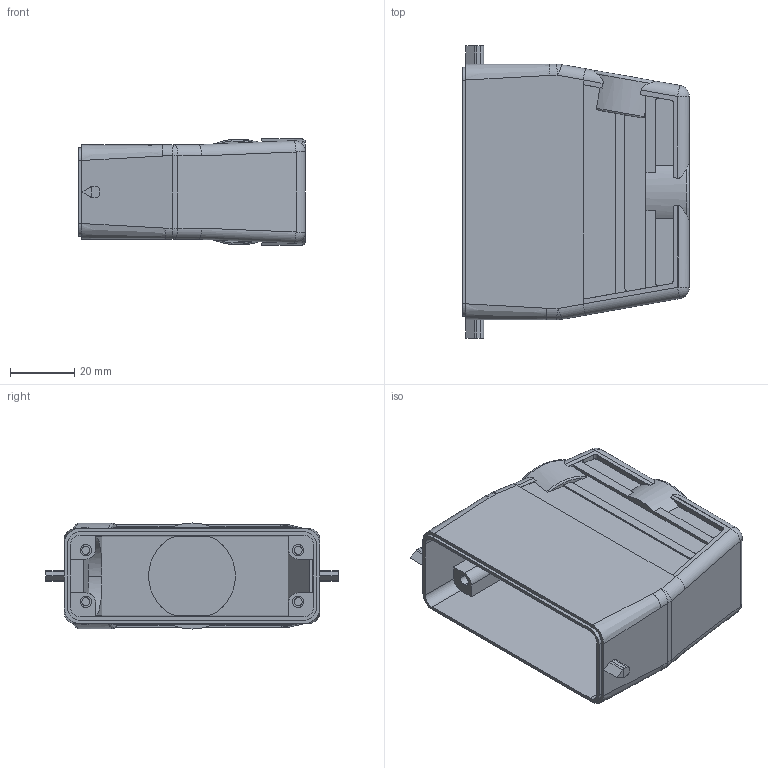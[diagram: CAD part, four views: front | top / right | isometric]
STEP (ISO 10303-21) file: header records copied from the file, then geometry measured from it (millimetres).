
FILE_DESCRIPTION((''),'2;1');
FILE_NAME('H16A-TSH-M25','2022-07-11T',('PC'),(''),'PRO/ENGINEER BY PARAMETRIC TECHNOLOGY CORPORATION, 2009220','PRO/ENGINEER BY PARAMETRIC TECHNOLOGY CORPORATION, 2009220','');
FILE_SCHEMA(('CONFIG_CONTROL_DESIGN'));
Length unit declared in the file: millimetre
Products named in the file (1): H16A-TSH-M25
Bounding box: 70.5 x 90.9 x 33 mm (x, y, z)
Surface area: 32836.5 mm2 (no closed solid volume)
Topology: 0 solids, 1 shells, 227 faces, 662 edges, 433 vertices
Faces by surface type: plane 119, cylinder 90, bspline 8, torus 6, sphere 4
Entity records: 8144 total; most frequent: CARTESIAN_POINT 2181, ORIENTED_EDGE 1300, DIRECTION 1173, EDGE_CURVE 654, VERTEX_POINT 434, AXIS2_PLACEMENT_3D 401, VECTOR 371, LINE 371
